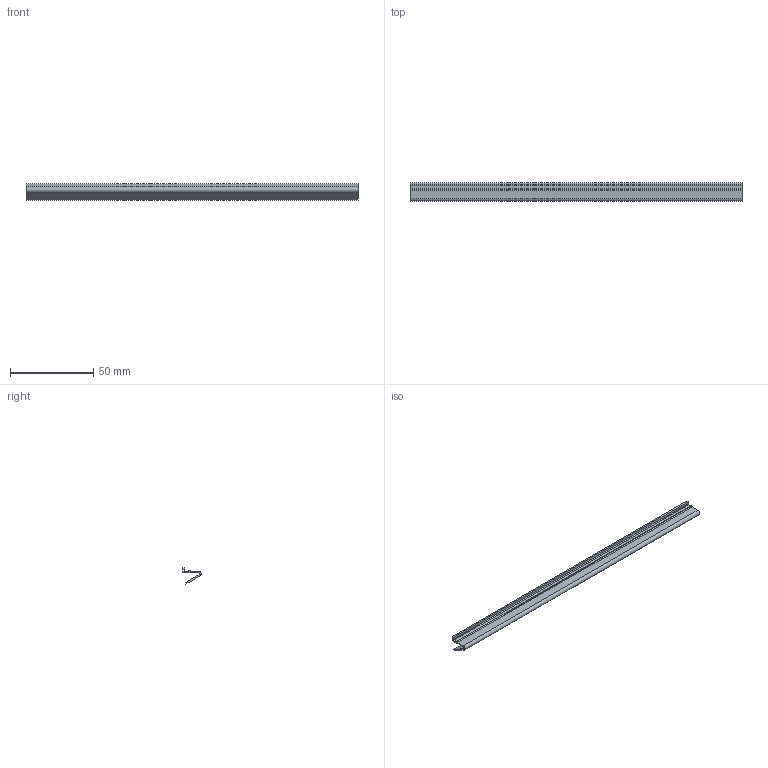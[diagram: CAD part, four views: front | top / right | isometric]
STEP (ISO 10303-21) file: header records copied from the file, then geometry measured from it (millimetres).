
FILE_DESCRIPTION (( 'STEP AP214' ), '1' );
FILE_NAME ('1.6001 Asennuslista 30.STEP', '2024-03-08T12:27:38', ( '' ), ( '' ), 'SwSTEP 2.0', 'SolidWorks 2024', '' );
FILE_SCHEMA (( 'AUTOMOTIVE_DESIGN' ));
Length unit declared in the file: millimetre
Products named in the file (1): 1.6001 Asennuslista 30
Bounding box: 200 x 11.02 x 9.74 mm (x, y, z)
Volume: 4854.4 mm3; surface area: 9998.7 mm2
Topology: 1 solids, 1 shells, 17 faces, 45 edges, 30 vertices
Faces by surface type: plane 11, cylinder 6
Entity records: 741 total; most frequent: CARTESIAN_POINT 93, DIRECTION 93, ORIENTED_EDGE 90, EDGE_CURVE 45, VECTOR 33, LINE 33, VERTEX_POINT 30, AXIS2_PLACEMENT_3D 30
